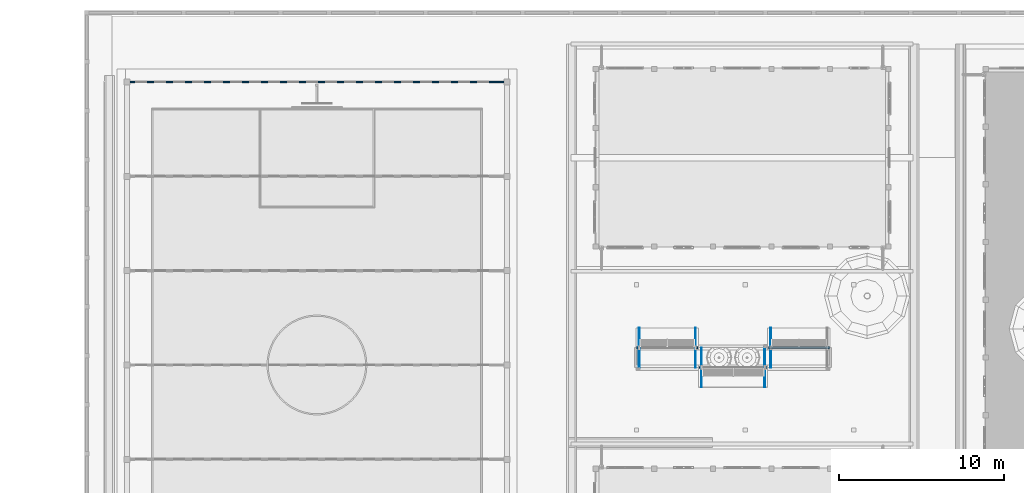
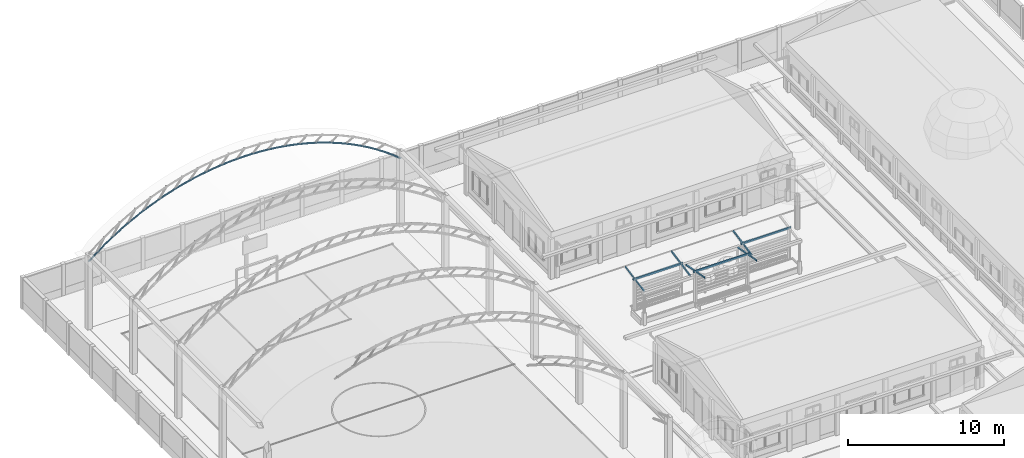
# One storey, part 33 of 177: 9 beams.
"""IFC4 building model written with IfcOpenShell, lengths in metres."""

from ifc_helpers import new_model, si_unit, origin, origin_with_axes, place, context, subcontext, project, spatial, triangles, element, save


model = new_model("IFC4")

# Units and contexts
model_context = context("Model", 3, precision=1e-05, world=origin_with_axes())
body_context = subcontext(model_context, "Body", "Model", "MODEL_VIEW")
ifc_project = project(units=[si_unit("LENGTHUNIT", "METRE"), si_unit("AREAUNIT", "SQUARE_METRE"), si_unit("VOLUMEUNIT", "CUBIC_METRE"), si_unit("PLANEANGLEUNIT", "RADIAN")], contexts=[model_context])

# Site, building, storey
site_placement = place(None, origin_with_axes())
site = spatial("IfcSite", under=ifc_project, at=site_placement, Name="Predio Los Mangos - Morales, San Martín", CompositionType="ELEMENT")
building_placement = place(site_placement, origin())
building = spatial("IfcBuilding", under=site, at=building_placement, Name="Hogar de Refugio Temporal", CompositionType="ELEMENT")
storey_placement = place(building_placement, origin())
storey = spatial("IfcBuildingStorey", under=building, at=storey_placement, Name="NIVEL 1 (NPT +0.00)", CompositionType="ELEMENT", Elevation=0.0)

# Beams
beam_1_placement = place(storey_placement, origin())
element("IfcBeam", 1, at=beam_1_placement, inside=storey, Name="arco", ObjectType="Viga", PredefinedType="BEAM", context=body_context, shape_type="Tessellation", body=[
    triangles([(3.4843, 127.0433, 5.3695), (3.4729, 127.025, 5.3838), (3.4687, 127.0, 5.389), (3.4729, 126.975, 5.3838), (3.4843, 126.9567, 5.3695), (3.5, 126.95, 5.35), (3.5157, 126.9567, 5.3305), (3.5271, 126.975, 5.3162), (3.5313, 127.0, 5.311), (3.5271, 127.025, 5.3162), (3.5157, 127.0433, 5.3305), (3.5, 127.05, 5.35), (4.0622, 127.0433, 5.8339), (4.0511, 127.025, 5.8484), (4.047, 127.0, 5.8537), (4.0511, 126.975, 5.8484), (4.0622, 126.9567, 5.8339), (4.0775, 126.95, 5.8141), (4.0928, 126.9567, 5.7943), (4.1039, 126.975, 5.7798), (4.108, 127.0, 5.7745), (4.1039, 127.025, 5.7798), (4.0928, 127.0433, 5.7943), (4.0775, 127.05, 5.8141), (4.6405, 127.0433, 6.2612), (4.63, 127.025, 6.2761), (4.6261, 127.0, 6.2816), (4.63, 126.975, 6.2761), (4.6405, 126.9567, 6.2612), (4.655, 126.95, 6.2408), (4.6695, 126.9567, 6.2204), (4.68, 126.975, 6.2055), (4.6839, 127.0, 6.2), (4.68, 127.025, 6.2055), (4.6695, 127.0433, 6.2204), (4.655, 127.05, 6.2408), (5.2188, 127.0433, 6.6543), (5.2088, 127.025, 6.6696), (5.2052, 127.0, 6.6752), (5.2088, 126.975, 6.6696), (5.2188, 126.9567, 6.6543), (5.2325, 126.95, 6.6333), (5.2462, 126.9567, 6.6124), (5.2562, 126.975, 6.5971), (5.2598, 127.0, 6.5915), (5.2562, 127.025, 6.5971), (5.2462, 127.0433, 6.6124), (5.2325, 127.05, 6.6333), (5.7971, 127.0433, 7.0157), (5.7877, 127.025, 7.0314), (5.7843, 127.0, 7.0372), (5.7877, 126.975, 7.0314), (5.7971, 126.9567, 7.0157), (5.81, 126.95, 6.9943), (5.8229, 126.9567, 6.9729), (5.8323, 126.975, 6.9572), (5.8357, 127.0, 6.9514), (5.8323, 127.025, 6.9572), (5.8229, 127.0433, 6.9729), (5.81, 127.05, 6.9943), (6.3755, 127.0433, 7.3478), (6.3666, 127.025, 7.3638), (6.3634, 127.0, 7.3697), (6.3666, 126.975, 7.3638), (6.3755, 126.9567, 7.3478), (6.3875, 126.95, 7.3259), (6.3995, 126.9567, 7.304), (6.4084, 126.975, 7.2879), (6.4116, 127.0, 7.282), (6.4084, 127.025, 7.2879), (6.3995, 127.0433, 7.304), (6.3875, 127.05, 7.3259), (6.9538, 127.0433, 7.6522), (6.9455, 127.025, 7.6685), (6.9425, 127.0, 7.6745), (6.9455, 126.975, 7.6685), (6.9538, 126.9567, 7.6522), (6.965, 126.95, 7.6298), (6.9762, 126.9567, 7.6075), (6.9845, 126.975, 7.5912), (6.9875, 127.0, 7.5852), (6.9845, 127.025, 7.5912), (6.9762, 127.0433, 7.6075), (6.965, 127.05, 7.6298), (7.5321, 127.0433, 7.9305), (7.5244, 127.025, 7.9471), (7.5216, 127.0, 7.9532), (7.5244, 126.975, 7.9471), (7.5321, 126.9567, 7.9305), (7.5425, 126.95, 7.9077), (7.5529, 126.9567, 7.885), (7.5606, 126.975, 7.8684), (7.5634, 127.0, 7.8623), (7.5606, 127.025, 7.8684), (7.5529, 127.0433, 7.885), (7.5425, 127.05, 7.9077), (8.1104, 127.0433, 8.184), (8.1033, 127.025, 8.2009), (8.1007, 127.0, 8.2071), (8.1033, 126.975, 8.2009), (8.1104, 126.9567, 8.184), (8.12, 126.95, 8.1609), (8.1296, 126.9567, 8.1379), (8.1367, 126.975, 8.121), (8.1393, 127.0, 8.1148), (8.1367, 127.025, 8.121), (8.1296, 127.0433, 8.1379), (8.12, 127.05, 8.1609), (8.6887, 127.0433, 8.4139), (8.6822, 127.025, 8.431), (8.6798, 127.0, 8.4373), (8.6822, 126.975, 8.431), (8.6887, 126.9567, 8.4139), (8.6975, 126.95, 8.3905), (8.7063, 126.9567, 8.3671), (8.7128, 126.975, 8.35), (8.7152, 127.0, 8.3437), (8.7128, 127.025, 8.35), (8.7063, 127.0433, 8.3671), (8.6975, 127.05, 8.3905), (9.267, 127.0433, 8.6211), (9.2611, 127.025, 8.6384), (9.2589, 127.0, 8.6447), (9.2611, 126.975, 8.6384), (9.267, 126.9567, 8.6211), (9.275, 126.95, 8.5974), (9.283, 126.9567, 8.5737), (9.2889, 126.975, 8.5564), (9.2911, 127.0, 8.55), (9.2889, 127.025, 8.5564), (9.283, 127.0433, 8.5737), (9.275, 127.05, 8.5974), (9.8453, 127.0433, 8.8064), (9.84, 127.025, 8.8239), (9.838, 127.0, 8.8303), (9.84, 126.975, 8.8239), (9.8453, 126.9567, 8.8064), (9.8525, 126.95, 8.7824), (9.8597, 126.9567, 8.7585), (9.865, 126.975, 8.741), (9.867, 127.0, 8.7346), (9.865, 127.025, 8.741), (9.8597, 127.0433, 8.7585), (9.8525, 127.05, 8.7824), (10.4236, 127.0433, 8.9705), (10.4189, 127.025, 8.9882), (10.4172, 127.0, 8.9947), (10.4189, 126.975, 8.9882), (10.4236, 126.9567, 8.9705), (10.43, 126.95, 8.9463), (10.4364, 126.9567, 8.9222), (10.4411, 126.975, 8.9045), (10.4429, 127.0, 8.898), (10.4411, 127.025, 8.9045), (10.4364, 127.0433, 8.9222), (10.43, 127.05, 8.9463), (11.0019, 127.0433, 9.1141), (10.9978, 127.025, 9.1319), (10.9963, 127.0, 9.1384), (10.9978, 126.975, 9.1319), (11.0019, 126.9567, 9.1141), (11.0075, 126.95, 9.0897), (11.0131, 126.9567, 9.0653), (11.0172, 126.975, 9.0475), (11.0187, 127.0, 9.041), (11.0172, 127.025, 9.0475), (11.0131, 127.0433, 9.0653), (11.0075, 127.05, 9.0897), (11.5802, 127.0433, 9.2375), (11.5767, 127.025, 9.2555), (11.5754, 127.0, 9.2621), (11.5767, 126.975, 9.2555), (11.5802, 126.9567, 9.2375), (11.585, 126.95, 9.213), (11.5898, 126.9567, 9.1885), (11.5933, 126.975, 9.1705), (11.5946, 127.0, 9.1639), (11.5933, 127.025, 9.1705), (11.5898, 127.0433, 9.1885), (11.585, 127.05, 9.213), (12.1585, 127.0433, 9.3413), (12.1555, 127.025, 9.3594), (12.1545, 127.0, 9.366), (12.1555, 126.975, 9.3594), (12.1585, 126.9567, 9.3413), (12.1625, 126.95, 9.3166), (12.1665, 126.9567, 9.292), (12.1695, 126.975, 9.2739), (12.1705, 127.0, 9.2673), (12.1695, 127.025, 9.2739), (12.1665, 127.0433, 9.292), (12.1625, 127.05, 9.3166), (12.7368, 127.0433, 9.4258), (12.7344, 127.025, 9.4439), (12.7336, 127.0, 9.4506), (12.7344, 126.975, 9.4439), (12.7368, 126.9567, 9.4258), (12.74, 126.95, 9.401), (12.7432, 126.9567, 9.3762), (12.7456, 126.975, 9.3581), (12.7464, 127.0, 9.3514), (12.7456, 127.025, 9.3581), (12.7432, 127.0433, 9.3762), (12.74, 127.05, 9.401), (13.3151, 127.0433, 9.4912), (13.3133, 127.025, 9.5094), (13.3127, 127.0, 9.5161), (13.3133, 126.975, 9.5094), (13.3151, 126.9567, 9.4912), (13.3175, 126.95, 9.4663), (13.3199, 126.9567, 9.4415), (13.3217, 126.975, 9.4232), (13.3223, 127.0, 9.4166), (13.3217, 127.025, 9.4232), (13.3199, 127.0433, 9.4415), (13.3175, 127.05, 9.4663), (13.8934, 127.0433, 9.5378), (13.8922, 127.025, 9.5561), (13.8918, 127.0, 9.5628), (13.8922, 126.975, 9.5561), (13.8934, 126.9567, 9.5378), (13.895, 126.95, 9.5129), (13.8966, 126.9567, 9.4879), (13.8978, 126.975, 9.4697), (13.8982, 127.0, 9.463), (13.8978, 127.025, 9.4697), (13.8966, 127.0433, 9.4879), (13.895, 127.05, 9.5129), (14.4717, 127.0433, 9.5657), (14.4711, 127.025, 9.584), (14.4709, 127.0, 9.5907), (14.4711, 126.975, 9.584), (14.4717, 126.9567, 9.5657), (14.4725, 126.95, 9.5407), (14.4733, 126.9567, 9.5157), (14.4739, 126.975, 9.4974), (14.4741, 127.0, 9.4907), (14.4739, 127.025, 9.4974), (14.4733, 127.0433, 9.5157), (14.4725, 127.05, 9.5407), (15.05, 127.0433, 9.575), (15.05, 127.025, 9.5933), (15.05, 127.0, 9.6), (15.05, 126.975, 9.5933), (15.05, 126.9567, 9.575), (15.05, 126.95, 9.55), (15.05, 126.9567, 9.525), (15.05, 126.975, 9.5067), (15.05, 127.0, 9.5), (15.05, 127.025, 9.5067), (15.05, 127.0433, 9.525), (15.05, 127.05, 9.55), (15.6283, 127.0433, 9.5657), (15.6289, 127.025, 9.584), (15.6291, 127.0, 9.5907), (15.6289, 126.975, 9.584), (15.6283, 126.9567, 9.5657), (15.6275, 126.95, 9.5407), (15.6267, 126.9567, 9.5157), (15.6261, 126.975, 9.4974), (15.6259, 127.0, 9.4907), (15.6261, 127.025, 9.4974), (15.6267, 127.0433, 9.5157), (15.6275, 127.05, 9.5407), (16.2066, 127.0433, 9.5378), (16.2078, 127.025, 9.5561), (16.2082, 127.0, 9.5628), (16.2078, 126.975, 9.5561), (16.2066, 126.9567, 9.5378), (16.205, 126.95, 9.5129), (16.2034, 126.9567, 9.4879), (16.2022, 126.975, 9.4697), (16.2018, 127.0, 9.463), (16.2022, 127.025, 9.4697), (16.2034, 127.0433, 9.4879), (16.205, 127.05, 9.5129), (16.7849, 127.0433, 9.4912), (16.7867, 127.025, 9.5094), (16.7873, 127.0, 9.5161), (16.7867, 126.975, 9.5094), (16.7849, 126.9567, 9.4912), (16.7825, 126.95, 9.4663), (16.7801, 126.9567, 9.4415), (16.7783, 126.975, 9.4232), (16.7777, 127.0, 9.4166), (16.7783, 127.025, 9.4232), (16.7801, 127.0433, 9.4415), (16.7825, 127.05, 9.4663), (17.3632, 127.0433, 9.4258), (17.3656, 127.025, 9.4439), (17.3664, 127.0, 9.4506), (17.3656, 126.975, 9.4439), (17.3632, 126.9567, 9.4258), (17.36, 126.95, 9.401), (17.3568, 126.9567, 9.3762), (17.3544, 126.975, 9.3581), (17.3536, 127.0, 9.3514), (17.3544, 127.025, 9.3581), (17.3568, 127.0433, 9.3762), (17.36, 127.05, 9.401), (17.9415, 127.0433, 9.3413), (17.9445, 127.025, 9.3594), (17.9455, 127.0, 9.366), (17.9445, 126.975, 9.3594), (17.9415, 126.9567, 9.3413), (17.9375, 126.95, 9.3166), (17.9335, 126.9567, 9.292), (17.9305, 126.975, 9.2739), (17.9295, 127.0, 9.2673), (17.9305, 127.025, 9.2739), (17.9335, 127.0433, 9.292), (17.9375, 127.05, 9.3166), (18.5198, 127.0433, 9.2375), (18.5233, 127.025, 9.2555), (18.5246, 127.0, 9.2621), (18.5233, 126.975, 9.2555), (18.5198, 126.9567, 9.2375), (18.515, 126.95, 9.213), (18.5102, 126.9567, 9.1885), (18.5067, 126.975, 9.1705), (18.5054, 127.0, 9.1639), (18.5067, 127.025, 9.1705), (18.5102, 127.0433, 9.1885), (18.515, 127.05, 9.213), (19.0981, 127.0433, 9.1141), (19.1022, 127.025, 9.1319), (19.1037, 127.0, 9.1384), (19.1022, 126.975, 9.1319), (19.0981, 126.9567, 9.1141), (19.0925, 126.95, 9.0897), (19.0869, 126.9567, 9.0653), (19.0828, 126.975, 9.0475), (19.0813, 127.0, 9.041), (19.0828, 127.025, 9.0475), (19.0869, 127.0433, 9.0653), (19.0925, 127.05, 9.0897), (19.6764, 127.0433, 8.9705), (19.6811, 127.025, 8.9882), (19.6828, 127.0, 8.9947), (19.6811, 126.975, 8.9882), (19.6764, 126.9567, 8.9705), (19.67, 126.95, 8.9463), (19.6636, 126.9567, 8.9222), (19.6589, 126.975, 8.9045), (19.6572, 127.0, 8.898), (19.6589, 127.025, 8.9045), (19.6636, 127.0433, 8.9222), (19.67, 127.05, 8.9463), (20.2547, 127.0433, 8.8064), (20.26, 127.025, 8.8239), (20.262, 127.0, 8.8303), (20.26, 126.975, 8.8239), (20.2547, 126.9567, 8.8064), (20.2475, 126.95, 8.7824), (20.2403, 126.9567, 8.7585), (20.235, 126.975, 8.741), (20.233, 127.0, 8.7346), (20.235, 127.025, 8.741), (20.2403, 127.0433, 8.7585), (20.2475, 127.05, 8.7824), (20.833, 127.0433, 8.6211), (20.8389, 127.025, 8.6384), (20.8411, 127.0, 8.6447), (20.8389, 126.975, 8.6384), (20.833, 126.9567, 8.6211), (20.825, 126.95, 8.5974), (20.817, 126.9567, 8.5737), (20.8111, 126.975, 8.5564), (20.8089, 127.0, 8.55), (20.8111, 127.025, 8.5564), (20.817, 127.0433, 8.5737), (20.825, 127.05, 8.5974), (21.4113, 127.0433, 8.4139), (21.4178, 127.025, 8.431), (21.4202, 127.0, 8.4373), (21.4178, 126.975, 8.431), (21.4113, 126.9567, 8.4139), (21.4025, 126.95, 8.3905), (21.3937, 126.9567, 8.3671), (21.3872, 126.975, 8.35), (21.3848, 127.0, 8.3437), (21.3872, 127.025, 8.35), (21.3937, 127.0433, 8.3671), (21.4025, 127.05, 8.3905), (21.9896, 127.0433, 8.184), (21.9967, 127.025, 8.2009), (21.9993, 127.0, 8.2071), (21.9967, 126.975, 8.2009), (21.9896, 126.9567, 8.184), (21.98, 126.95, 8.1609), (21.9704, 126.9567, 8.1379), (21.9633, 126.975, 8.121), (21.9607, 127.0, 8.1148), (21.9633, 127.025, 8.121), (21.9704, 127.0433, 8.1379), (21.98, 127.05, 8.1609), (22.5679, 127.0433, 7.9305), (22.5756, 127.025, 7.9471), (22.5784, 127.0, 7.9532), (22.5756, 126.975, 7.9471), (22.5679, 126.9567, 7.9305), (22.5575, 126.95, 7.9077), (22.5471, 126.9567, 7.885), (22.5394, 126.975, 7.8684), (22.5366, 127.0, 7.8623), (22.5394, 127.025, 7.8684), (22.5471, 127.0433, 7.885), (22.5575, 127.05, 7.9077), (23.1462, 127.0433, 7.6522), (23.1545, 127.025, 7.6685), (23.1575, 127.0, 7.6745), (23.1545, 126.975, 7.6685), (23.1462, 126.9567, 7.6522), (23.135, 126.95, 7.6298), (23.1238, 126.9567, 7.6075), (23.1155, 126.975, 7.5912), (23.1125, 127.0, 7.5852), (23.1155, 127.025, 7.5912), (23.1238, 127.0433, 7.6075), (23.135, 127.05, 7.6298), (23.7245, 127.0433, 7.3478), (23.7334, 127.025, 7.3638), (23.7366, 127.0, 7.3697), (23.7334, 126.975, 7.3638), (23.7245, 126.9567, 7.3478), (23.7125, 126.95, 7.3259), (23.7005, 126.9567, 7.304), (23.6916, 126.975, 7.2879), (23.6884, 127.0, 7.282), (23.6916, 127.025, 7.2879), (23.7005, 127.0433, 7.304), (23.7125, 127.05, 7.3259), (24.3029, 127.0433, 7.0157), (24.3123, 127.025, 7.0314), (24.3157, 127.0, 7.0372), (24.3123, 126.975, 7.0314), (24.3029, 126.9567, 7.0157), (24.29, 126.95, 6.9943), (24.2771, 126.9567, 6.9729), (24.2677, 126.975, 6.9572), (24.2643, 127.0, 6.9514), (24.2677, 127.025, 6.9572), (24.2771, 127.0433, 6.9729), (24.29, 127.05, 6.9943), (24.8812, 127.0433, 6.6543), (24.8912, 127.025, 6.6696), (24.8948, 127.0, 6.6752), (24.8912, 126.975, 6.6696), (24.8812, 126.9567, 6.6543), (24.8675, 126.95, 6.6333), (24.8538, 126.9567, 6.6124), (24.8438, 126.975, 6.5971), (24.8402, 127.0, 6.5915), (24.8438, 127.025, 6.5971), (24.8538, 127.0433, 6.6124), (24.8675, 127.05, 6.6333), (25.4595, 127.0433, 6.2612), (25.47, 127.025, 6.2761), (25.4739, 127.0, 6.2816), (25.47, 126.975, 6.2761), (25.4595, 126.9567, 6.2612), (25.445, 126.95, 6.2408), (25.4305, 126.9567, 6.2204), (25.42, 126.975, 6.2055), (25.4161, 127.0, 6.2), (25.42, 127.025, 6.2055), (25.4305, 127.0433, 6.2204), (25.445, 127.05, 6.2408), (26.0378, 127.0433, 5.8339), (26.0489, 127.025, 5.8484), (26.053, 127.0, 5.8537), (26.0489, 126.975, 5.8484), (26.0378, 126.9567, 5.8339), (26.0225, 126.95, 5.8141), (26.0072, 126.9567, 5.7943), (25.9961, 126.975, 5.7798), (25.992, 127.0, 5.7745), (25.9961, 127.025, 5.7798), (26.0072, 127.0433, 5.7943), (26.0225, 127.05, 5.8141), (26.6157, 127.0433, 5.3695), (26.6271, 127.025, 5.3838), (26.6313, 127.0, 5.389), (26.6271, 126.975, 5.3838), (26.6157, 126.9567, 5.3695), (26.6, 126.95, 5.35), (26.5843, 126.9567, 5.3305), (26.5729, 126.975, 5.3162), (26.5687, 127.0, 5.311), (26.5729, 127.025, 5.3162), (26.5843, 127.0433, 5.3305), (26.6, 127.05, 5.35)], [[1, 13, 24], [1, 24, 12], [2, 14, 13], [2, 13, 1], [3, 15, 14], [3, 14, 2], [4, 16, 15], [4, 15, 3], [5, 17, 16], [5, 16, 4], [6, 18, 17], [6, 17, 5], [7, 19, 18], [7, 18, 6], [8, 20, 19], [8, 19, 7], [9, 21, 20], [9, 20, 8], [10, 22, 21], [10, 21, 9], [11, 23, 22], [11, 22, 10], [12, 24, 23], [12, 23, 11], [13, 25, 36], [13, 36, 24], [14, 26, 25], [14, 25, 13], [15, 27, 26], [15, 26, 14], [16, 28, 27], [16, 27, 15], [17, 29, 28], [17, 28, 16], [18, 30, 29], [18, 29, 17], [19, 31, 30], [19, 30, 18], [20, 32, 31], [20, 31, 19], [21, 33, 32], [21, 32, 20], [22, 34, 33], [22, 33, 21], [23, 35, 34], [23, 34, 22], [24, 36, 35], [24, 35, 23], [25, 37, 48], [25, 48, 36], [26, 38, 37], [26, 37, 25], [27, 39, 38], [27, 38, 26], [28, 40, 39], [28, 39, 27], [29, 41, 40], [29, 40, 28], [30, 42, 41], [30, 41, 29], [31, 43, 42], [31, 42, 30], [32, 44, 43], [32, 43, 31], [33, 45, 44], [33, 44, 32], [34, 46, 45], [34, 45, 33], [35, 47, 46], [35, 46, 34], [36, 48, 47], [36, 47, 35], [37, 49, 60], [37, 60, 48], [38, 50, 49], [38, 49, 37], [39, 51, 50], [39, 50, 38], [40, 52, 51], [40, 51, 39], [41, 53, 52], [41, 52, 40], [42, 54, 53], [42, 53, 41], [43, 55, 54], [43, 54, 42], [44, 56, 55], [44, 55, 43], [45, 57, 56], [45, 56, 44], [46, 58, 57], [46, 57, 45], [47, 59, 58], [47, 58, 46], [48, 60, 59], [48, 59, 47], [49, 61, 72], [49, 72, 60], [50, 62, 61], [50, 61, 49], [51, 63, 62], [51, 62, 50], [52, 64, 63], [52, 63, 51], [53, 65, 64], [53, 64, 52], [54, 66, 65], [54, 65, 53], [55, 67, 66], [55, 66, 54], [56, 68, 67], [56, 67, 55], [57, 69, 68], [57, 68, 56], [58, 70, 69], [58, 69, 57], [59, 71, 70], [59, 70, 58], [60, 72, 71], [60, 71, 59], [61, 73, 84], [61, 84, 72], [62, 74, 73], [62, 73, 61], [63, 75, 74], [63, 74, 62], [64, 76, 75], [64, 75, 63], [65, 77, 76], [65, 76, 64], [66, 78, 77], [66, 77, 65], [67, 79, 78], [67, 78, 66], [68, 80, 79], [68, 79, 67], [69, 81, 80], [69, 80, 68], [70, 82, 81], [70, 81, 69], [71, 83, 82], [71, 82, 70], [72, 84, 83], [72, 83, 71], [73, 85, 96], [73, 96, 84], [74, 86, 85], [74, 85, 73], [75, 87, 86], [75, 86, 74], [76, 88, 87], [76, 87, 75], [77, 89, 88], [77, 88, 76], [78, 90, 89], [78, 89, 77], [79, 91, 90], [79, 90, 78], [80, 92, 91], [80, 91, 79], [81, 93, 92], [81, 92, 80], [82, 94, 93], [82, 93, 81], [83, 95, 94], [83, 94, 82], [84, 96, 95], [84, 95, 83], [85, 97, 108], [85, 108, 96], [86, 98, 97], [86, 97, 85], [87, 99, 98], [87, 98, 86], [88, 100, 99], [88, 99, 87], [89, 101, 100], [89, 100, 88], [90, 102, 101], [90, 101, 89], [91, 103, 102], [91, 102, 90], [92, 104, 103], [92, 103, 91], [93, 105, 104], [93, 104, 92], [94, 106, 105], [94, 105, 93], [95, 107, 106], [95, 106, 94], [96, 108, 107], [96, 107, 95], [97, 109, 120], [97, 120, 108], [98, 110, 109], [98, 109, 97], [99, 111, 110], [99, 110, 98], [100, 112, 111], [100, 111, 99], [101, 113, 112], [101, 112, 100], [102, 114, 113], [102, 113, 101], [103, 115, 114], [103, 114, 102], [104, 116, 115], [104, 115, 103], [105, 117, 116], [105, 116, 104], [106, 118, 117], [106, 117, 105], [107, 119, 118], [107, 118, 106], [108, 120, 119], [108, 119, 107], [109, 121, 132], [109, 132, 120], [110, 122, 121], [110, 121, 109], [111, 123, 122], [111, 122, 110], [112, 124, 123], [112, 123, 111], [113, 125, 124], [113, 124, 112], [114, 126, 125], [114, 125, 113], [115, 127, 126], [115, 126, 114], [116, 128, 127], [116, 127, 115], [117, 129, 128], [117, 128, 116], [118, 130, 129], [118, 129, 117], [119, 131, 130], [119, 130, 118], [120, 132, 131], [120, 131, 119], [121, 133, 144], [121, 144, 132], [122, 134, 133], [122, 133, 121], [123, 135, 134], [123, 134, 122], [124, 136, 135], [124, 135, 123], [125, 137, 136], [125, 136, 124], [126, 138, 137], [126, 137, 125], [127, 139, 138], [127, 138, 126], [128, 140, 139], [128, 139, 127], [129, 141, 140], [129, 140, 128], [130, 142, 141], [130, 141, 129], [131, 143, 142], [131, 142, 130], [132, 144, 143], [132, 143, 131], [133, 145, 156], [133, 156, 144], [134, 146, 145], [134, 145, 133], [135, 147, 146], [135, 146, 134], [136, 148, 147], [136, 147, 135], [137, 149, 148], [137, 148, 136], [138, 150, 149], [138, 149, 137], [139, 151, 150], [139, 150, 138], [140, 152, 151], [140, 151, 139], [141, 153, 152], [141, 152, 140], [142, 154, 153], [142, 153, 141], [143, 155, 154], [143, 154, 142], [144, 156, 155], [144, 155, 143], [145, 157, 168], [145, 168, 156], [146, 158, 157], [146, 157, 145], [147, 159, 158], [147, 158, 146], [148, 160, 159], [148, 159, 147], [149, 161, 160], [149, 160, 148], [150, 162, 161], [150, 161, 149], [151, 163, 162], [151, 162, 150], [152, 164, 163], [152, 163, 151], [153, 165, 164], [153, 164, 152], [154, 166, 165], [154, 165, 153], [155, 167, 166], [155, 166, 154], [156, 168, 167], [156, 167, 155], [157, 169, 180], [157, 180, 168], [158, 170, 169], [158, 169, 157], [159, 171, 170], [159, 170, 158], [160, 172, 171], [160, 171, 159], [161, 173, 172], [161, 172, 160], [162, 174, 173], [162, 173, 161], [163, 175, 174], [163, 174, 162], [164, 176, 175], [164, 175, 163], [165, 177, 176], [165, 176, 164], [166, 178, 177], [166, 177, 165], [167, 179, 178], [167, 178, 166], [168, 180, 179], [168, 179, 167], [169, 181, 192], [169, 192, 180], [170, 182, 181], [170, 181, 169], [171, 183, 182], [171, 182, 170], [172, 184, 183], [172, 183, 171], [173, 185, 184], [173, 184, 172], [174, 186, 185], [174, 185, 173], [175, 187, 186], [175, 186, 174], [176, 188, 187], [176, 187, 175], [177, 189, 188], [177, 188, 176], [178, 190, 189], [178, 189, 177], [179, 191, 190], [179, 190, 178], [180, 192, 191], [180, 191, 179], [181, 193, 204], [181, 204, 192], [182, 194, 193], [182, 193, 181], [183, 195, 194], [183, 194, 182], [184, 196, 195], [184, 195, 183], [185, 197, 196], [185, 196, 184], [186, 198, 197], [186, 197, 185], [187, 199, 198], [187, 198, 186], [188, 200, 199], [188, 199, 187], [189, 201, 200], [189, 200, 188], [190, 202, 201], [190, 201, 189], [191, 203, 202], [191, 202, 190], [192, 204, 203], [192, 203, 191], [193, 205, 216], [193, 216, 204], [194, 206, 205], [194, 205, 193], [195, 207, 206], [195, 206, 194], [196, 208, 207], [196, 207, 195], [197, 209, 208], [197, 208, 196], [198, 210, 209], [198, 209, 197], [199, 211, 210], [199, 210, 198], [200, 212, 211], [200, 211, 199], [201, 213, 212], [201, 212, 200], [202, 214, 213], [202, 213, 201], [203, 215, 214], [203, 214, 202], [204, 216, 215], [204, 215, 203], [205, 217, 228], [205, 228, 216], [206, 218, 217], [206, 217, 205], [207, 219, 218], [207, 218, 206], [208, 220, 219], [208, 219, 207], [209, 221, 220], [209, 220, 208], [210, 222, 221], [210, 221, 209], [211, 223, 222], [211, 222, 210], [212, 224, 223], [212, 223, 211], [213, 225, 224], [213, 224, 212], [214, 226, 225], [214, 225, 213], [215, 227, 226], [215, 226, 214], [216, 228, 227], [216, 227, 215], [217, 229, 240], [217, 240, 228], [218, 230, 229], [218, 229, 217], [219, 231, 230], [219, 230, 218], [220, 232, 231], [220, 231, 219], [221, 233, 232], [221, 232, 220], [222, 234, 233], [222, 233, 221], [223, 235, 234], [223, 234, 222], [224, 236, 235], [224, 235, 223], [225, 237, 236], [225, 236, 224], [226, 238, 237], [226, 237, 225], [227, 239, 238], [227, 238, 226], [228, 240, 239], [228, 239, 227], [229, 241, 252], [229, 252, 240], [230, 242, 241], [230, 241, 229], [231, 243, 242], [231, 242, 230], [232, 244, 243], [232, 243, 231], [233, 245, 244], [233, 244, 232], [234, 246, 245], [234, 245, 233], [235, 247, 246], [235, 246, 234], [236, 248, 247], [236, 247, 235], [237, 249, 248], [237, 248, 236], [238, 250, 249], [238, 249, 237], [239, 251, 250], [239, 250, 238], [240, 252, 251], [240, 251, 239], [241, 253, 264], [241, 264, 252], [242, 254, 253], [242, 253, 241], [243, 255, 254], [243, 254, 242], [244, 256, 255], [244, 255, 243], [245, 257, 256], [245, 256, 244], [246, 258, 257], [246, 257, 245], [247, 259, 258], [247, 258, 246], [248, 260, 259], [248, 259, 247], [249, 261, 260], [249, 260, 248], [250, 262, 261], [250, 261, 249], [251, 263, 262], [251, 262, 250], [252, 264, 263], [252, 263, 251], [253, 265, 276], [253, 276, 264], [254, 266, 265], [254, 265, 253], [255, 267, 266], [255, 266, 254], [256, 268, 267], [256, 267, 255], [257, 269, 268], [257, 268, 256], [258, 270, 269], [258, 269, 257], [259, 271, 270], [259, 270, 258], [260, 272, 271], [260, 271, 259], [261, 273, 272], [261, 272, 260], [262, 274, 273], [262, 273, 261], [263, 275, 274], [263, 274, 262], [264, 276, 275], [264, 275, 263], [265, 277, 288], [265, 288, 276], [266, 278, 277], [266, 277, 265], [267, 279, 278], [267, 278, 266], [268, 280, 279], [268, 279, 267], [269, 281, 280], [269, 280, 268], [270, 282, 281], [270, 281, 269], [271, 283, 282], [271, 282, 270], [272, 284, 283], [272, 283, 271], [273, 285, 284], [273, 284, 272], [274, 286, 285], [274, 285, 273], [275, 287, 286], [275, 286, 274], [276, 288, 287], [276, 287, 275], [277, 289, 300], [277, 300, 288], [278, 290, 289], [278, 289, 277], [279, 291, 290], [279, 290, 278], [280, 292, 291], [280, 291, 279], [281, 293, 292], [281, 292, 280], [282, 294, 293], [282, 293, 281], [283, 295, 294], [283, 294, 282], [284, 296, 295], [284, 295, 283], [285, 297, 296], [285, 296, 284], [286, 298, 297], [286, 297, 285], [287, 299, 298], [287, 298, 286], [288, 300, 299], [288, 299, 287], [289, 301, 312], [289, 312, 300], [290, 302, 301], [290, 301, 289], [291, 303, 302], [291, 302, 290], [292, 304, 303], [292, 303, 291], [293, 305, 304], [293, 304, 292], [294, 306, 305], [294, 305, 293], [295, 307, 306], [295, 306, 294], [296, 308, 307], [296, 307, 295], [297, 309, 308], [297, 308, 296], [298, 310, 309], [298, 309, 297], [299, 311, 310], [299, 310, 298], [300, 312, 311], [300, 311, 299], [301, 313, 324], [301, 324, 312], [302, 314, 313], [302, 313, 301], [303, 315, 314], [303, 314, 302], [304, 316, 315], [304, 315, 303], [305, 317, 316], [305, 316, 304], [306, 318, 317], [306, 317, 305], [307, 319, 318], [307, 318, 306], [308, 320, 319], [308, 319, 307], [309, 321, 320], [309, 320, 308], [310, 322, 321], [310, 321, 309], [311, 323, 322], [311, 322, 310], [312, 324, 323], [312, 323, 311], [313, 325, 336], [313, 336, 324], [314, 326, 325], [314, 325, 313], [315, 327, 326], [315, 326, 314], [316, 328, 327], [316, 327, 315], [317, 329, 328], [317, 328, 316], [318, 330, 329], [318, 329, 317], [319, 331, 330], [319, 330, 318], [320, 332, 331], [320, 331, 319], [321, 333, 332], [321, 332, 320], [322, 334, 333], [322, 333, 321], [323, 335, 334], [323, 334, 322], [324, 336, 335], [324, 335, 323], [325, 337, 348], [325, 348, 336], [326, 338, 337], [326, 337, 325], [327, 339, 338], [327, 338, 326], [328, 340, 339], [328, 339, 327], [329, 341, 340], [329, 340, 328], [330, 342, 341], [330, 341, 329], [331, 343, 342], [331, 342, 330], [332, 344, 343], [332, 343, 331], [333, 345, 344], [333, 344, 332], [334, 346, 345], [334, 345, 333], [335, 347, 346], [335, 346, 334], [336, 348, 347], [336, 347, 335], [337, 349, 360], [337, 360, 348], [338, 350, 349], [338, 349, 337], [339, 351, 350], [339, 350, 338], [340, 352, 351], [340, 351, 339], [341, 353, 352], [341, 352, 340], [342, 354, 353], [342, 353, 341], [343, 355, 354], [343, 354, 342], [344, 356, 355], [344, 355, 343], [345, 357, 356], [345, 356, 344], [346, 358, 357], [346, 357, 345], [347, 359, 358], [347, 358, 346], [348, 360, 359], [348, 359, 347], [349, 361, 372], [349, 372, 360], [350, 362, 361], [350, 361, 349], [351, 363, 362], [351, 362, 350], [352, 364, 363], [352, 363, 351], [353, 365, 364], [353, 364, 352], [354, 366, 365], [354, 365, 353], [355, 367, 366], [355, 366, 354], [356, 368, 367], [356, 367, 355], [357, 369, 368], [357, 368, 356], [358, 370, 369], [358, 369, 357], [359, 371, 370], [359, 370, 358], [360, 372, 371], [360, 371, 359], [361, 373, 384], [361, 384, 372], [362, 374, 373], [362, 373, 361], [363, 375, 374], [363, 374, 362], [364, 376, 375], [364, 375, 363], [365, 377, 376], [365, 376, 364], [366, 378, 377], [366, 377, 365], [367, 379, 378], [367, 378, 366], [368, 380, 379], [368, 379, 367], [369, 381, 380], [369, 380, 368], [370, 382, 381], [370, 381, 369], [371, 383, 382], [371, 382, 370], [372, 384, 383], [372, 383, 371], [373, 385, 396], [373, 396, 384], [374, 386, 385], [374, 385, 373], [375, 387, 386], [375, 386, 374], [376, 388, 387], [376, 387, 375], [377, 389, 388], [377, 388, 376], [378, 390, 389], [378, 389, 377], [379, 391, 390], [379, 390, 378], [380, 392, 391], [380, 391, 379], [381, 393, 392], [381, 392, 380], [382, 394, 393], [382, 393, 381], [383, 395, 394], [383, 394, 382], [384, 396, 395], [384, 395, 383], [385, 397, 408], [385, 408, 396], [386, 398, 397], [386, 397, 385], [387, 399, 398], [387, 398, 386], [388, 400, 399], [388, 399, 387], [389, 401, 400], [389, 400, 388], [390, 402, 401], [390, 401, 389], [391, 403, 402], [391, 402, 390], [392, 404, 403], [392, 403, 391], [393, 405, 404], [393, 404, 392], [394, 406, 405], [394, 405, 393], [395, 407, 406], [395, 406, 394], [396, 408, 407], [396, 407, 395], [397, 409, 420], [397, 420, 408], [398, 410, 409], [398, 409, 397], [399, 411, 410], [399, 410, 398], [400, 412, 411], [400, 411, 399], [401, 413, 412], [401, 412, 400], [402, 414, 413], [402, 413, 401], [403, 415, 414], [403, 414, 402], [404, 416, 415], [404, 415, 403], [405, 417, 416], [405, 416, 404], [406, 418, 417], [406, 417, 405], [407, 419, 418], [407, 418, 406], [408, 420, 419], [408, 419, 407], [409, 421, 432], [409, 432, 420], [410, 422, 421], [410, 421, 409], [411, 423, 422], [411, 422, 410], [412, 424, 423], [412, 423, 411], [413, 425, 424], [413, 424, 412], [414, 426, 425], [414, 425, 413], [415, 427, 426], [415, 426, 414], [416, 428, 427], [416, 427, 415], [417, 429, 428], [417, 428, 416], [418, 430, 429], [418, 429, 417], [419, 431, 430], [419, 430, 418], [420, 432, 431], [420, 431, 419], [421, 433, 444], [421, 444, 432], [422, 434, 433], [422, 433, 421], [423, 435, 434], [423, 434, 422], [424, 436, 435], [424, 435, 423], [425, 437, 436], [425, 436, 424], [426, 438, 437], [426, 437, 425], [427, 439, 438], [427, 438, 426], [428, 440, 439], [428, 439, 427], [429, 441, 440], [429, 440, 428], [430, 442, 441], [430, 441, 429], [431, 443, 442], [431, 442, 430], [432, 444, 443], [432, 443, 431], [433, 445, 456], [433, 456, 444], [434, 446, 445], [434, 445, 433], [435, 447, 446], [435, 446, 434], [436, 448, 447], [436, 447, 435], [437, 449, 448], [437, 448, 436], [438, 450, 449], [438, 449, 437], [439, 451, 450], [439, 450, 438], [440, 452, 451], [440, 451, 439], [441, 453, 452], [441, 452, 440], [442, 454, 453], [442, 453, 441], [443, 455, 454], [443, 454, 442], [444, 456, 455], [444, 455, 443], [445, 457, 468], [445, 468, 456], [446, 458, 457], [446, 457, 445], [447, 459, 458], [447, 458, 446], [448, 460, 459], [448, 459, 447], [449, 461, 460], [449, 460, 448], [450, 462, 461], [450, 461, 449], [451, 463, 462], [451, 462, 450], [452, 464, 463], [452, 463, 451], [453, 465, 464], [453, 464, 452], [454, 466, 465], [454, 465, 453], [455, 467, 466], [455, 466, 454], [456, 468, 467], [456, 467, 455], [457, 469, 480], [457, 480, 468], [458, 470, 469], [458, 469, 457], [459, 471, 470], [459, 470, 458], [460, 472, 471], [460, 471, 459], [461, 473, 472], [461, 472, 460], [462, 474, 473], [462, 473, 461], [463, 475, 474], [463, 474, 462], [464, 476, 475], [464, 475, 463], [465, 477, 476], [465, 476, 464], [466, 478, 477], [466, 477, 465], [467, 479, 478], [467, 478, 466], [468, 480, 479], [468, 479, 467], [469, 481, 492], [469, 492, 480], [470, 482, 481], [470, 481, 469], [471, 483, 482], [471, 482, 470], [472, 484, 483], [472, 483, 471], [473, 485, 484], [473, 484, 472], [474, 486, 485], [474, 485, 473], [475, 487, 486], [475, 486, 474], [476, 488, 487], [476, 487, 475], [477, 489, 488], [477, 488, 476], [478, 490, 489], [478, 489, 477], [479, 491, 490], [479, 490, 478], [480, 492, 491], [480, 491, 479]]),
])
beam_2_placement = place(storey_placement, origin())
element("IfcBeam", 2, at=beam_2_placement, inside=storey, Name="oc01_viga", ObjectType="Viga", PredefinedType="BEAM", context=body_context, shape_type="Tessellation", body=[
    triangles([(46.195, 110.9, 2.81), (42.505, 110.9, 2.81), (42.505, 110.8, 2.81), (46.195, 110.8, 2.81), (46.195, 110.9, 2.93), (42.505, 110.9, 2.93), (42.505, 110.8, 2.93), (46.195, 110.8, 2.93)], [[1, 4, 3], [1, 3, 2], [5, 6, 7], [5, 7, 8], [1, 2, 6], [1, 6, 5], [2, 3, 7], [2, 7, 6], [3, 4, 8], [3, 8, 7], [4, 1, 5], [4, 5, 8]]),
])
beam_3_placement = place(storey_placement, origin())
element("IfcBeam", 3, at=beam_3_placement, inside=storey, Name="oc01_correa", ObjectType="Viga", PredefinedType="BEAM", context=body_context, shape_type="Tessellation", body=[
    triangles([(42.66, 109.6594, 2.5909), (42.66, 112.0594, 3.0509), (42.61, 112.0594, 3.0509), (42.61, 109.6594, 2.5909), (42.66, 109.6406, 2.6891), (42.66, 112.0406, 3.1491), (42.61, 112.0406, 3.1491), (42.61, 109.6406, 2.6891)], [[1, 4, 3], [1, 3, 2], [5, 6, 7], [5, 7, 8], [1, 2, 6], [1, 6, 5], [2, 3, 7], [2, 7, 6], [3, 4, 8], [3, 8, 7], [4, 1, 5], [4, 5, 8]]),
])
beam_4_placement = place(storey_placement, origin())
element("IfcBeam", 4, at=beam_4_placement, inside=storey, Name="oc01_viga", ObjectType="Viga", PredefinedType="BEAM", context=body_context, shape_type="Tessellation", body=[
    triangles([(42.405, 109.7, 2.81), (38.295, 109.7, 2.81), (38.295, 109.6, 2.81), (42.405, 109.6, 2.81), (42.405, 109.7, 2.93), (38.295, 109.7, 2.93), (38.295, 109.6, 2.93), (42.405, 109.6, 2.93)], [[1, 4, 3], [1, 3, 2], [5, 6, 7], [5, 7, 8], [1, 2, 6], [1, 6, 5], [2, 3, 7], [2, 7, 6], [3, 4, 8], [3, 8, 7], [4, 1, 5], [4, 5, 8]]),
])
beam_5_placement = place(storey_placement, origin())
element("IfcBeam", 5, at=beam_5_placement, inside=storey, Name="oc01_correa", ObjectType="Viga", PredefinedType="BEAM", context=body_context, shape_type="Tessellation", body=[
    triangles([(42.25, 110.8406, 2.5909), (42.25, 108.4406, 3.0509), (42.3, 108.4406, 3.0509), (42.3, 110.8406, 2.5909), (42.25, 110.8594, 2.6891), (42.25, 108.4594, 3.1491), (42.3, 108.4594, 3.1491), (42.3, 110.8594, 2.6891)], [[1, 4, 3], [1, 3, 2], [5, 6, 7], [5, 7, 8], [1, 2, 6], [1, 6, 5], [2, 3, 7], [2, 7, 6], [3, 4, 8], [3, 8, 7], [4, 1, 5], [4, 5, 8]]),
])
beam_6_placement = place(storey_placement, origin())
element("IfcBeam", 6, at=beam_6_placement, inside=storey, Name="oc01_correa", ObjectType="Viga", PredefinedType="BEAM", context=body_context, shape_type="Tessellation", body=[
    triangles([(38.4, 110.8406, 2.5909), (38.4, 108.4406, 3.0509), (38.45, 108.4406, 3.0509), (38.45, 110.8406, 2.5909), (38.4, 110.8594, 2.6891), (38.4, 108.4594, 3.1491), (38.45, 108.4594, 3.1491), (38.45, 110.8594, 2.6891)], [[1, 4, 3], [1, 3, 2], [5, 6, 7], [5, 7, 8], [1, 2, 6], [1, 6, 5], [2, 3, 7], [2, 7, 6], [3, 4, 8], [3, 8, 7], [4, 1, 5], [4, 5, 8]]),
])
beam_7_placement = place(storey_placement, origin())
element("IfcBeam", 7, at=beam_7_placement, inside=storey, Name="oc01_viga", ObjectType="Viga", PredefinedType="BEAM", context=body_context, shape_type="Tessellation", body=[
    triangles([(38.195, 110.9, 2.81), (34.505, 110.9, 2.81), (34.505, 110.8, 2.81), (38.195, 110.8, 2.81), (38.195, 110.9, 2.93), (34.505, 110.9, 2.93), (34.505, 110.8, 2.93), (38.195, 110.8, 2.93)], [[1, 4, 3], [1, 3, 2], [5, 6, 7], [5, 7, 8], [1, 2, 6], [1, 6, 5], [2, 3, 7], [2, 7, 6], [3, 4, 8], [3, 8, 7], [4, 1, 5], [4, 5, 8]]),
])
beam_8_placement = place(storey_placement, origin())
element("IfcBeam", 8, at=beam_8_placement, inside=storey, Name="oc01_correa", ObjectType="Viga", PredefinedType="BEAM", context=body_context, shape_type="Tessellation", body=[
    triangles([(38.09, 109.6594, 2.5909), (38.09, 112.0594, 3.0509), (38.04, 112.0594, 3.0509), (38.04, 109.6594, 2.5909), (38.09, 109.6406, 2.6891), (38.09, 112.0406, 3.1491), (38.04, 112.0406, 3.1491), (38.04, 109.6406, 2.6891)], [[1, 4, 3], [1, 3, 2], [5, 6, 7], [5, 7, 8], [1, 2, 6], [1, 6, 5], [2, 3, 7], [2, 7, 6], [3, 4, 8], [3, 8, 7], [4, 1, 5], [4, 5, 8]]),
])
beam_9_placement = place(storey_placement, origin())
element("IfcBeam", 9, at=beam_9_placement, inside=storey, Name="oc01_correa", ObjectType="Viga", PredefinedType="BEAM", context=body_context, shape_type="Tessellation", body=[
    triangles([(34.66, 109.6594, 2.5909), (34.66, 112.0594, 3.0509), (34.61, 112.0594, 3.0509), (34.61, 109.6594, 2.5909), (34.66, 109.6406, 2.6891), (34.66, 112.0406, 3.1491), (34.61, 112.0406, 3.1491), (34.61, 109.6406, 2.6891)], [[1, 4, 3], [1, 3, 2], [5, 6, 7], [5, 7, 8], [1, 2, 6], [1, 6, 5], [2, 3, 7], [2, 7, 6], [3, 4, 8], [3, 8, 7], [4, 1, 5], [4, 5, 8]]),
])

save(model, "model.ifc")
